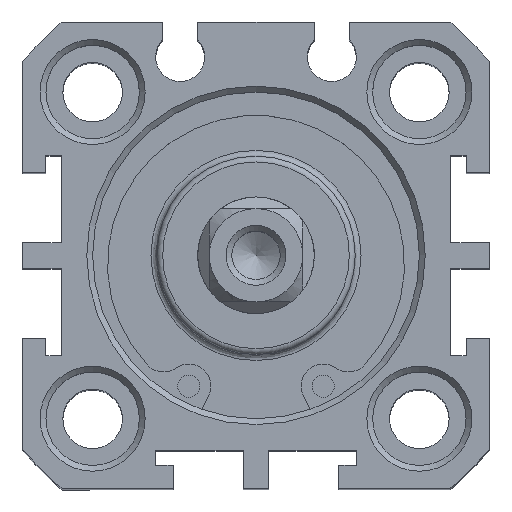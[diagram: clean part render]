
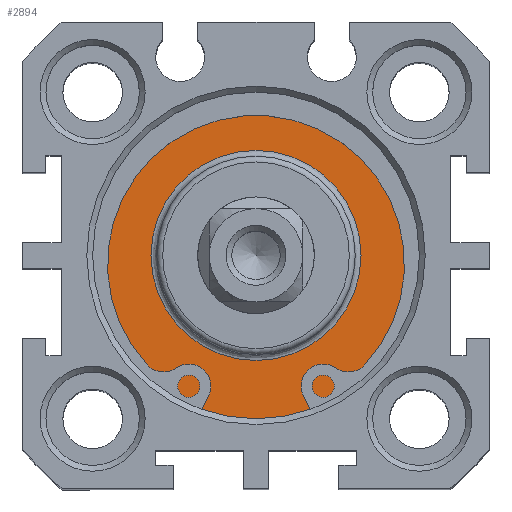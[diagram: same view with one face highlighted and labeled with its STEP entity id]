
A CAD part, top view. The second image highlights one B-rep face of the part: STEP entity #2894.
In plain terms, the highlighted planar face has unit normal (0, 0, 1).
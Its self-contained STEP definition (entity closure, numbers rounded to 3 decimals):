
#2843=CARTESIAN_POINT('',(-2.524,11.284,58.3));
#2844=VERTEX_POINT('',#2843);
#2845=CARTESIAN_POINT('',(-2.524,2.284,58.3));
#2846=DIRECTION('',(0.0,0.0,1.0));
#2847=DIRECTION('',(0.0,-1.0,0.0));
#2848=AXIS2_PLACEMENT_3D('',#2845,#2846,#2847);
#2849=CIRCLE('',#2848,9.);
#2850=EDGE_CURVE('',#2844,#2844,#2849,.T.);
#2875=CARTESIAN_POINT('',(-2.524,13.534,58.3));
#2876=DIRECTION('',(0.0,0.0,1.0));
#2877=DIRECTION('',(1.0,0.0,0.0));
#2878=AXIS2_PLACEMENT_3D('',#2875,#2876,#2877);
#2879=PLANE('',#2878);
#2880=CARTESIAN_POINT('',(-2.524,16.284,58.3));
#2881=VERTEX_POINT('',#2880);
#2882=CARTESIAN_POINT('',(-2.524,2.284,58.3));
#2883=DIRECTION('',(0.0,0.0,-1.0));
#2884=DIRECTION('',(0.0,1.0,0.0));
#2885=AXIS2_PLACEMENT_3D('',#2882,#2883,#2884);
#2886=CIRCLE('',#2885,14.);
#2887=EDGE_CURVE('',#2881,#2881,#2886,.T.);
#2888=ORIENTED_EDGE('',*,*,#2887,.F.);
#2889=EDGE_LOOP('',(#2888));
#2890=FACE_OUTER_BOUND('',#2889,.T.);
#2891=ORIENTED_EDGE('',*,*,#2850,.F.);
#2892=EDGE_LOOP('',(#2891));
#2893=FACE_BOUND('',#2892,.T.);
#2894=ADVANCED_FACE('',(#2890,#2893),#2879,.T.);
